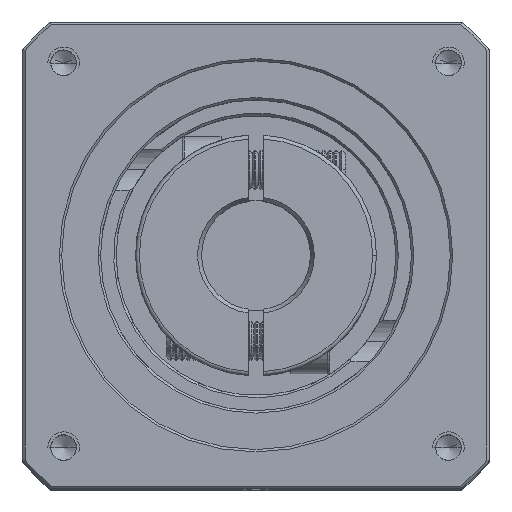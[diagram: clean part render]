
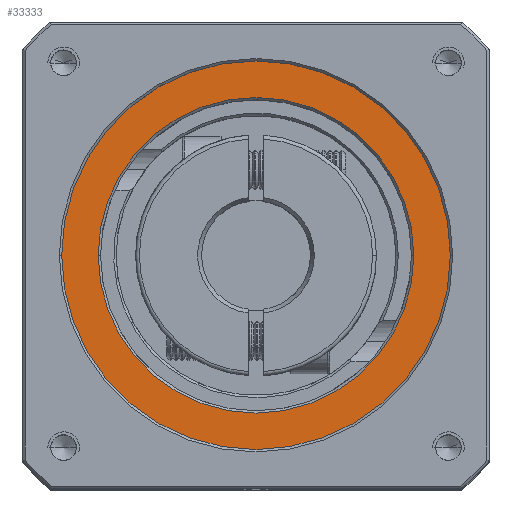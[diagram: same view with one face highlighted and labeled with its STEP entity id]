
A CAD part, top view. The second image highlights one B-rep face of the part: STEP entity #33333.
In plain terms, the highlighted planar face has unit normal (0, 0, 1).
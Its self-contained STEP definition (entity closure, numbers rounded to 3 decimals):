
#1954 = ORIENTED_EDGE ( 'NONE', *, *, #74941, .T. ) ;
#7842 = AXIS2_PLACEMENT_3D ( 'NONE', #14696, #22741, #30789 ) ;
#11021 = DIRECTION ( 'NONE',  ( 0., 0., 1. ) ) ;
#12417 = VERTEX_POINT ( 'NONE', #80148 ) ;
#13959 = VERTEX_POINT ( 'NONE', #62869 ) ;
#14696 = CARTESIAN_POINT ( 'NONE',  ( -37.326, 30.565, -5.04 ) ) ;
#16309 = CARTESIAN_POINT ( 'NONE',  ( -37.326, 30.565, -5.04 ) ) ;
#17478 = CARTESIAN_POINT ( 'NONE',  ( -37.326, 30.565, -5.04 ) ) ;
#17717 = DIRECTION ( 'NONE',  ( 0., 0., -1. ) ) ;
#22741 = DIRECTION ( 'NONE',  ( 0., 0., -1. ) ) ;
#24523 = VERTEX_POINT ( 'NONE', #95247 ) ;
#25922 = EDGE_CURVE ( 'NONE', #12417, #24523, #45482, .T. ) ;
#27099 = CARTESIAN_POINT ( 'NONE',  ( -37.326, 30.565, -5.04 ) ) ;
#29226 = VERTEX_POINT ( 'NONE', #73009 ) ;
#30789 = DIRECTION ( 'NONE',  ( 1., 0., 0. ) ) ;
#33263 = ORIENTED_EDGE ( 'NONE', *, *, #25922, .T. ) ;
#33333 = ADVANCED_FACE ( 'NONE', ( #71331, #45091 ), #57768, .T. ) ;
#34951 = AXIS2_PLACEMENT_3D ( 'NONE', #48508, #17717, #73652 ) ;
#38297 = CIRCLE ( 'NONE', #7842, 20.3 ) ;
#38439 = ORIENTED_EDGE ( 'NONE', *, *, #44783, .T. ) ;
#40491 = DIRECTION ( 'NONE',  ( 1., 0., 0. ) ) ;
#41534 = EDGE_LOOP ( 'NONE', ( #33263, #38439 ) ) ;
#43943 = AXIS2_PLACEMENT_3D ( 'NONE', #27099, #11021, #59347 ) ;
#44783 = EDGE_CURVE ( 'NONE', #24523, #12417, #92971, .T. ) ;
#45091 = FACE_OUTER_BOUND ( 'NONE', #41534, .T. ) ;
#45482 = CIRCLE ( 'NONE', #43943, 25. ) ;
#45500 = AXIS2_PLACEMENT_3D ( 'NONE', #17478, #88863, #72399 ) ;
#46440 = EDGE_LOOP ( 'NONE', ( #1954, #48867 ) ) ;
#48508 = CARTESIAN_POINT ( 'NONE',  ( -37.326, 30.565, -5.04 ) ) ;
#48867 = ORIENTED_EDGE ( 'NONE', *, *, #49542, .T. ) ;
#49542 = EDGE_CURVE ( 'NONE', #13959, #29226, #103347, .T. ) ;
#57768 = PLANE ( 'NONE',  #45500 ) ;
#59347 = DIRECTION ( 'NONE',  ( 1., 0., 0. ) ) ;
#61957 = AXIS2_PLACEMENT_3D ( 'NONE', #16309, #80360, #40491 ) ;
#62869 = CARTESIAN_POINT ( 'NONE',  ( -57.626, 30.565, -5.04 ) ) ;
#71331 = FACE_BOUND ( 'NONE', #46440, .T. ) ;
#72399 = DIRECTION ( 'NONE',  ( 1., 0., 0. ) ) ;
#73009 = CARTESIAN_POINT ( 'NONE',  ( -17.026, 30.565, -5.04 ) ) ;
#73652 = DIRECTION ( 'NONE',  ( 1., 0., 0. ) ) ;
#74941 = EDGE_CURVE ( 'NONE', #29226, #13959, #38297, .T. ) ;
#80148 = CARTESIAN_POINT ( 'NONE',  ( -12.326, 30.565, -5.04 ) ) ;
#80360 = DIRECTION ( 'NONE',  ( 0., 0., 1. ) ) ;
#88863 = DIRECTION ( 'NONE',  ( 0., 0., 1. ) ) ;
#92971 = CIRCLE ( 'NONE', #61957, 25. ) ;
#95247 = CARTESIAN_POINT ( 'NONE',  ( -62.326, 30.565, -5.04 ) ) ;
#103347 = CIRCLE ( 'NONE', #34951, 20.3 ) ;
